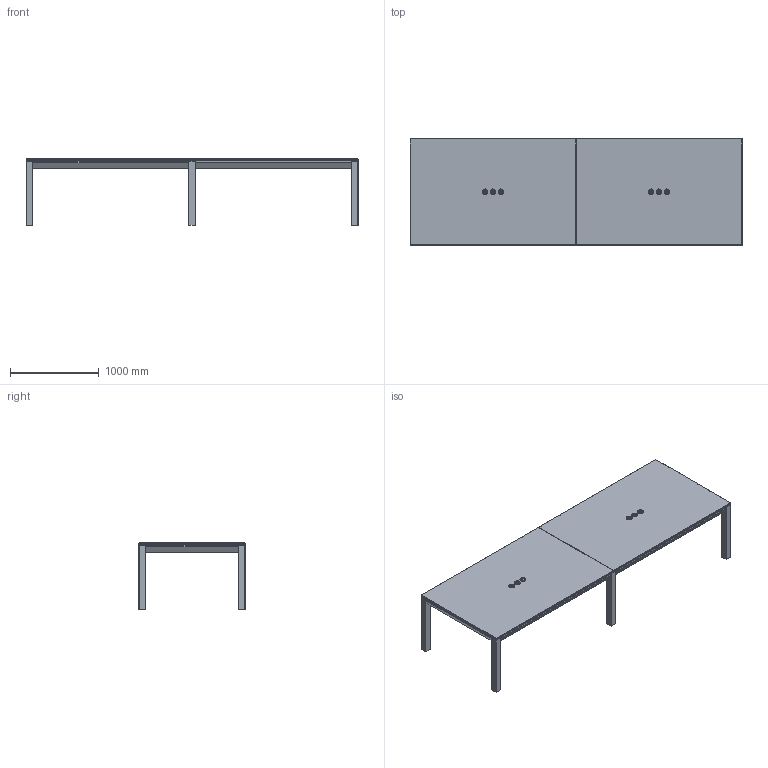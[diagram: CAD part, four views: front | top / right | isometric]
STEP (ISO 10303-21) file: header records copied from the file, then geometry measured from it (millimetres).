
FILE_DESCRIPTION( ('This file contains a STEP AP42 implementation' ,'as created by ZW3D STEP Interface translator.') ,'2;1' );
FILE_NAME( 'Clarte - Table de réunion XXL - 375x120x75.stp' ,'24 913.114213', (''), ('ZWCAD Software Co.'), 'Version 1.0', 'ZW3D to STEP translator', '' );
FILE_SCHEMA(('AUTOMOTIVE_DESIGN { 1 0 10303 214 1 1 1 1 }'));
Length unit declared in the file: millimetre
Products named in the file (4): 0; CLARTE - TABLE DE REUNION XXL; Triple Disq60 Legrand; prise élcetrique encastré LEGRANG
Assembly tree (5 placements, depth 3):
  0
  CLARTE - TABLE DE REUNION XXL
    Triple Disq60 Legrand  x2
      prise élcetrique encastré LEGRANG
Bounding box: 3750 x 1200 x 754 mm (x, y, z)
Volume: 176833494.9 mm3; surface area: 22785878 mm2
Topology: 22 solids, 22 shells, 369 faces, 708 edges, 420 vertices
Faces by surface type: plane 315, cylinder 48, sphere 6
Full cylindrical faces by diameter (mm): 4 x6, 5 x18, 38 x6, 39 x6, 55 x6, 67 x6
Entity records: 7635 total; most frequent: CARTESIAN_POINT 1209, DIRECTION 1188, ORIENTED_EDGE 1154, EDGE_CURVE 577, VECTOR 560, LINE 560, VERTEX_POINT 335, AXIS2_PLACEMENT_3D 314
